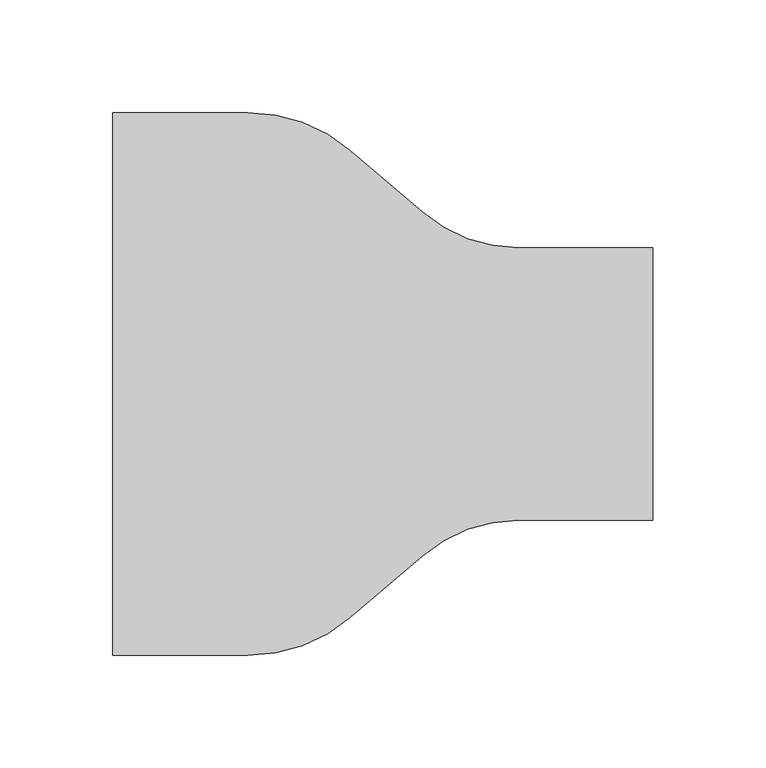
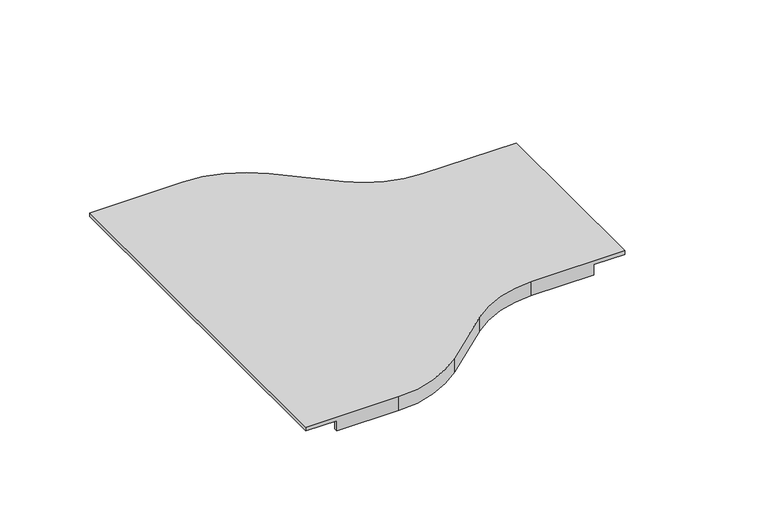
"""IFC4 building model written with IfcOpenShell, lengths in millimetres: cable carrier fitting geometry, CCT_Hyperline_FBTR-240-RDC120-CVR Крышка на переход 240-120 для оптического лотка : Крышка на переход 240-120 для оптического лотка."""

from ifc_helpers import new_model, si_unit, frame, origin, place, context, project, spatial, polyline, circle_curve, source, transform, mapped, element, save
from ifc_brep_helpers import plane_surface, cylinder_surface, revolved_surface, advanced_brep


def cable_carrier_fitting_50b0d15a(model_context):
    return source(origin(), model_context, "Body", "AdvancedBrep", [
        advanced_brep(
        [(120.0, 60.54, 53.0), (120.0, -60.54, 53.0), (120.0, -60.54, 50.46), (120.0, 60.54, 50.46), (60.0, 60.54, 53.0), (17.671595, 76.1982961, 53.0), (-14.3655749, 103.6587274, 53.0), (-60.0, 120.54, 53.0), (-120.0, 120.54, 53.0), (-120.0, -120.54, 53.0), (-60.0, -120.54, 53.0), (-14.3655749, -103.6587274, 53.0), (17.671595, -76.1982961, 53.0), (60.0, -60.54, 53.0), (-60.0, 118.0, 50.46), (-16.0185849, 101.7302157, 50.46), (16.0185849, 74.2697843, 50.46), (60.0, 58.0, 50.46), (100.0, 58.0, 50.46), (100.0, 60.54, 50.46), (100.0, -60.54, 50.46), (100.0, -58.0, 50.46), (60.0, -58.0, 50.46), (16.0185849, -74.2697843, 50.46), (-16.0185849, -101.7302157, 50.46), (-60.0, -118.0, 50.46), (-100.0, -118.0, 50.46), (-100.0, -120.54, 50.46), (-120.0, -120.54, 50.46), (-120.0, 120.54, 50.46), (-100.0, 120.54, 50.46), (-100.0, 118.0, 50.46), (60.0, 58.0, 43.46), (100.0, 58.0, 43.46), (16.0185849, 74.2697843, 43.46), (-16.0185849, 101.7302157, 43.46), (-60.0, 118.0, 43.46), (-100.0, 118.0, 43.46), (-100.0, 120.54, 43.46), (-60.0, 120.54, 43.46), (-14.3655749, 103.6587274, 43.46), (17.671595, 76.1982961, 43.46), (60.0, 60.54, 43.46), (100.0, 60.54, 43.46), (60.0, -58.0, 43.46), (100.0, -58.0, 43.46), (60.0, -60.54, 43.46), (17.671595, -76.1982961, 43.46), (-14.3655749, -103.6587274, 43.46), (-60.0, -120.54, 43.46), (-100.0, -120.54, 43.46), (-100.0, -118.0, 43.46), (-60.0, -118.0, 43.46), (-16.0185849, -101.7302157, 43.46), (16.0185849, -74.2697843, 43.46), (100.0, -60.54, 43.46)],
        [
            (0, 1),
            (1, 2),
            (2, 3),
            (3, 0),
            (0, 4),
            (4, 5, circle_curve(frame((60.0, 125.5814352, 53.0), z_axis=(0.0, 0.0, -1.0), x_axis=(0.0, -1.0, 0.0)), 65.0414352)),
            (5, 6),
            (6, 7, circle_curve(frame((-60.0, 50.4185648, 53.0), z_axis=(0.0, 0.0, 1.0), x_axis=(0.6507913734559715, 0.759256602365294, 0.0)), 70.1214352)),
            (7, 8),
            (8, 9),
            (9, 10),
            (10, 11, circle_curve(frame((-60.0, -50.4185648, 53.0), z_axis=(0.0, 0.0, 1.0), x_axis=(0.6507913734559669, -0.7592566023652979, 0.0)), 70.1214352)),
            (11, 12),
            (12, 13, circle_curve(frame((60.0, -125.5814352, 53.0), z_axis=(0.0, 0.0, -1.0), x_axis=(0.0, 1.0, 0.0)), 65.0414352)),
            (13, 1),
            (14, 15, circle_curve(frame((-60.0, 50.4185648, 50.46), z_axis=(0.0, 0.0, -1.0), x_axis=(0.6507913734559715, 0.759256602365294, 0.0)), 67.5814352)),
            (15, 16),
            (16, 17, circle_curve(frame((60.0, 125.5814352, 50.46), z_axis=(0.0, 0.0, 1.0), x_axis=(0.0, -1.0, 0.0)), 67.5814352)),
            (17, 18),
            (18, 19),
            (19, 3),
            (2, 20),
            (20, 21),
            (21, 22),
            (22, 23, circle_curve(frame((60.0, -125.5814352, 50.46), z_axis=(0.0, 0.0, 1.0), x_axis=(0.0, 1.0, 0.0)), 67.5814352)),
            (23, 24),
            (24, 25, circle_curve(frame((-60.0, -50.4185648, 50.46), z_axis=(0.0, 0.0, -1.0), x_axis=(0.6507913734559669, -0.7592566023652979, 0.0)), 67.5814352)),
            (25, 26),
            (26, 27),
            (27, 28),
            (28, 29),
            (29, 30),
            (30, 31),
            (31, 14),
            (17, 32),
            (32, 33),
            (33, 18),
            (32, 34, circle_curve(frame((60.0, 125.5814352, 43.46), z_axis=(0.0, 0.0, -1.0), x_axis=(0.0, -1.0, 0.0)), 67.5814352)),
            (34, 35),
            (35, 36, circle_curve(frame((-60.0, 50.4185648, 43.46), z_axis=(0.0, 0.0, 1.0), x_axis=(0.6507913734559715, 0.759256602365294, 0.0)), 67.5814352)),
            (36, 37),
            (37, 38),
            (38, 39),
            (39, 40, circle_curve(frame((-60.0, 50.4185648, 43.46), z_axis=(0.0, 0.0, -1.0), x_axis=(0.6507913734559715, 0.759256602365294, 0.0)), 70.1214352)),
            (40, 41),
            (41, 42, circle_curve(frame((60.0, 125.5814352, 43.46), z_axis=(0.0, 0.0, 1.0), x_axis=(0.0, -1.0, 0.0)), 65.0414352)),
            (42, 43),
            (43, 33),
            (19, 43),
            (42, 4),
            (8, 29),
            (28, 9),
            (16, 34),
            (41, 5),
            (15, 35),
            (40, 6),
            (14, 36),
            (39, 7),
            (31, 37),
            (38, 30),
            (44, 22),
            (21, 45),
            (45, 44),
            (46, 47, circle_curve(frame((60.0, -125.5814352, 43.46), z_axis=(0.0, 0.0, 1.0), x_axis=(0.0, 1.0, 0.0)), 65.0414352)),
            (47, 48),
            (48, 49, circle_curve(frame((-60.0, -50.4185648, 43.46), z_axis=(0.0, 0.0, -1.0), x_axis=(0.6507913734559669, -0.7592566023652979, 0.0)), 70.1214352)),
            (49, 50),
            (50, 51),
            (51, 52),
            (52, 53, circle_curve(frame((-60.0, -50.4185648, 43.46), z_axis=(0.0, 0.0, 1.0), x_axis=(0.6507913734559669, -0.7592566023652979, 0.0)), 67.5814352)),
            (53, 54),
            (54, 44, circle_curve(frame((60.0, -125.5814352, 43.46), z_axis=(0.0, 0.0, -1.0), x_axis=(0.0, 1.0, 0.0)), 67.5814352)),
            (45, 55),
            (55, 46),
            (13, 46),
            (55, 20),
            (54, 23),
            (12, 47),
            (53, 24),
            (11, 48),
            (52, 25),
            (10, 49),
            (51, 26),
            (27, 50),
        ],
        [
            plane_surface(frame((120.0, 58.0, 0.46), z_axis=(1.0, 0.0, 0.0), x_axis=(0.0, 0.0, 1.0))),
            plane_surface(frame((120.0, 60.54, 53.0), z_axis=(0.0, 0.0, 1.0), x_axis=(-1.0, 0.0, 0.0))),
            plane_surface(frame((120.0, 0.0, 50.46), z_axis=(0.0, 0.0, -1.0), x_axis=(-1.0, 0.0, 0.0))),
            plane_surface(frame((120.0, 58.0, 50.46), z_axis=(0.0, -1.0, 0.0), x_axis=(-1.0, 0.0, 0.0))),
            plane_surface(frame((120.0, 58.0, 43.46), z_axis=(0.0, 0.0, -1.0), x_axis=(-1.0, 0.0, 0.0))),
            plane_surface(frame((120.0, 60.54, 43.46), z_axis=(0.0, 1.0, 0.0), x_axis=(-1.0, 0.0, 0.0))),
            plane_surface(frame((-120.0, 118.0, 0.46), z_axis=(-1.0, 0.0, 0.0), x_axis=(0.0, 0.0, 1.0))),
            cylinder_surface(frame((60.0, 125.5814352, 0.46), z_axis=(0.0, 0.0, -1.0), x_axis=(0.0, -1.0, 0.0)), 67.5814352),
            revolved_surface(polyline([(60.0, 60.540000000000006, 43.46), (60.0, 60.540000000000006, 53.0)]), (60.0, 125.5814352, 0.46), (0.0, 0.0, -1.0)),
            plane_surface(frame((16.0185849, 74.2697843, 50.46), z_axis=(-0.6507913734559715, -0.7592566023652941, 0.0), x_axis=(-0.7592566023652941, 0.6507913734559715, 0.0))),
            plane_surface(frame((17.671595, 76.1982961, 43.46), z_axis=(0.6507913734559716, 0.7592566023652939, 0.0), x_axis=(-0.7592566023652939, 0.6507913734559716, 0.0))),
            revolved_surface(polyline([(-16.018584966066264, 101.73021567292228, 50.46), (-16.018584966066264, 101.73021567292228, 43.46)]), (-60.0, 50.4185648, 0.46), (0.0, 0.0, 1.0)),
            cylinder_surface(frame((-60.0, 50.4185648, 0.46), z_axis=(0.0, 0.0, 1.0), x_axis=(0.6507913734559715, 0.759256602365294, 0.0)), 70.1214352),
            plane_surface(frame((-60.0, 118.0, 50.46), z_axis=(0.0, -1.0, 0.0), x_axis=(-1.0, 0.0, 0.0))),
            plane_surface(frame((-60.0, 120.54, 43.46), z_axis=(0.0, 1.0, 0.0), x_axis=(-1.0, 0.0, 0.0))),
            plane_surface(frame((120.0, -58.0, 43.46), z_axis=(0.0, 1.0, 0.0), x_axis=(-1.0, 0.0, 0.0))),
            plane_surface(frame((120.0, -60.54, 43.46), z_axis=(0.0, 0.0, -1.0), x_axis=(-1.0, 0.0, 0.0))),
            plane_surface(frame((120.0, -60.54, 53.0), z_axis=(0.0, -1.0, 0.0), x_axis=(-1.0, 0.0, 0.0))),
            cylinder_surface(frame((60.0, -125.5814352, 0.46), z_axis=(0.0, 0.0, 1.0), x_axis=(0.0, 1.0, 0.0)), 67.5814352),
            revolved_surface(polyline([(60.0, -60.540000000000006, 53.0), (60.0, -60.540000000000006, 43.46)]), (60.0, -125.5814352, 0.46), (0.0, 0.0, 1.0)),
            plane_surface(frame((16.0185849, -74.2697843, 43.46), z_axis=(-0.6507913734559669, 0.759256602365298, 0.0), x_axis=(-0.759256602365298, -0.6507913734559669, 0.0))),
            plane_surface(frame((17.671595, -76.1982961, 53.0), z_axis=(0.6507913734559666, -0.7592566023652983, 0.0), x_axis=(-0.7592566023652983, -0.6507913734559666, 0.0))),
            revolved_surface(polyline([(-16.01858496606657, -101.73021567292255, 43.46), (-16.01858496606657, -101.73021567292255, 50.46)]), (-60.0, -50.4185648, 0.46), (0.0, 0.0, -1.0)),
            cylinder_surface(frame((-60.0, -50.4185648, 0.46), z_axis=(0.0, 0.0, -1.0), x_axis=(0.6507913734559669, -0.7592566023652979, 0.0)), 70.1214352),
            plane_surface(frame((-60.0, -118.0, 43.46), z_axis=(0.0, 1.0, 0.0), x_axis=(-1.0, 0.0, 0.0))),
            plane_surface(frame((-60.0, -120.54, 53.0), z_axis=(0.0, -1.0, 0.0), x_axis=(-1.0, 0.0, 0.0))),
            plane_surface(frame((100.0, -520.0, 50.46), z_axis=(1.0, 0.0, 0.0), x_axis=(0.0, 1.0, 0.0))),
            plane_surface(frame((-100.0, -520.0, 43.46), z_axis=(-1.0, 0.0, 0.0), x_axis=(0.0, 1.0, 0.0))),
        ],
        [
            (0, [[1, 2, 3, 4]]),
            (1, [[5, 6, 7, 8, 9, 10, 11, 12, 13, 14, 15, -1]]),
            (2, [[16, 17, 18, 19, 20, 21, -3, 22, 23, 24, 25, 26, 27, 28, 29, 30, 31, 32, 33, 34]]),
            (3, [[35, 36, 37, -19]]),
            (4, [[38, 39, 40, 41, 42, 43, 44, 45, 46, 47, 48, -36]]),
            (5, [[-5, -4, -21, 49, -47, 50]]),
            (6, [[-10, 51, -31, 52]]),
            (7, [[-18, 53, -38, -35]]),
            (8, [[-6, -50, -46, 54]]),
            (9, [[-17, 55, -39, -53]]),
            (10, [[-7, -54, -45, 56]]),
            (11, [[-16, 57, -40, -55]]),
            (12, [[-8, -56, -44, 58]]),
            (13, [[-57, -34, 59, -41]]),
            (14, [[-9, -58, -43, 60, -32, -51]]),
            (15, [[61, -24, 62, 63]]),
            (16, [[64, 65, 66, 67, 68, 69, 70, 71, 72, -63, 73, 74]]),
            (17, [[-15, 75, -74, 76, -22, -2]]),
            (18, [[-25, -61, -72, 77]]),
            (19, [[-14, 78, -64, -75]]),
            (20, [[-26, -77, -71, 79]]),
            (21, [[-13, 80, -65, -78]]),
            (22, [[-27, -79, -70, 81]]),
            (23, [[-12, 82, -66, -80]]),
            (24, [[-81, -69, 83, -28]]),
            (25, [[-11, -52, -30, 84, -67, -82]]),
            (26, [[-20, -37, -48, -49]]),
            (26, [[-23, -76, -73, -62]]),
            (27, [[-29, -83, -68, -84]]),
            (27, [[-33, -60, -42, -59]]),
        ],
    ),
    ])


if __name__ == "__main__":
    model = new_model("IFC4")
    model_context = context("Model", 3, world=origin())
    ifc_project = project(units=[si_unit("LENGTHUNIT", "METRE", prefix="MILLI")], contexts=[model_context])
    site = spatial("IfcSite", under=ifc_project)
    building = spatial("IfcBuilding", under=site)
    placement = place(None, origin())
    cable_carrier_fitting_shape = cable_carrier_fitting_50b0d15a(model_context)
    element("IfcCableCarrierFitting", 1, ObjectType="CCT_Hyperline_FBTR-240-RDC120-CVR Крышка на переход 240-120 для оптического лотка : Крышка на переход 240-120 для оптического лотка", at=placement, inside=building, context=model_context, shape_type="MappedRepresentation", body=[
        mapped(cable_carrier_fitting_shape, transform((0.0, 0.0, 0.0), x_axis=(1.0, 0.0, 0.0), y_axis=(0.0, 1.0, 0.0), z_axis=(0.0, 0.0, 1.0))),
    ])
    save(model, "model.ifc")
